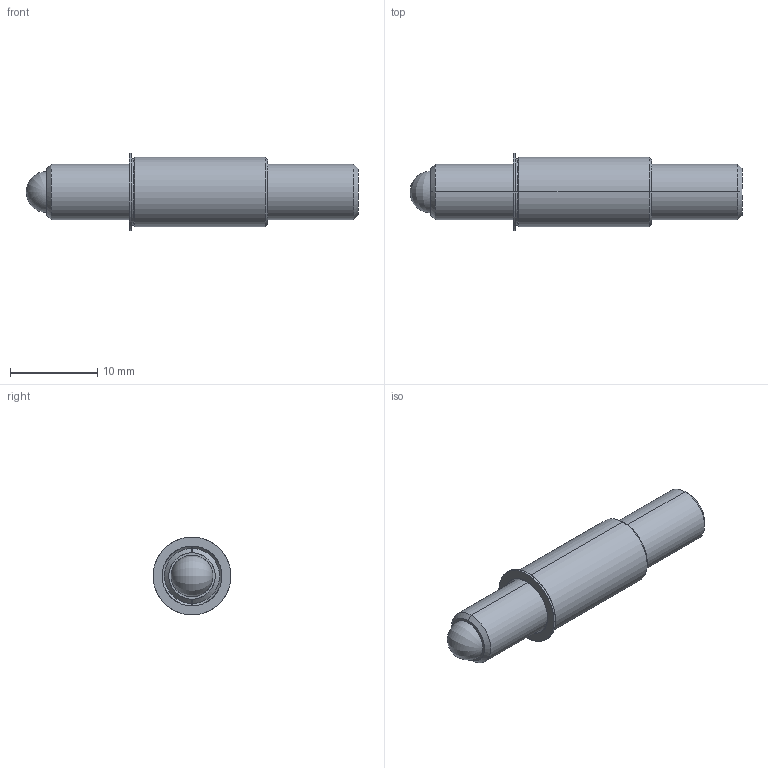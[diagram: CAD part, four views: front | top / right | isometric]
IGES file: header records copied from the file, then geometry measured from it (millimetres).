
Start section: SolidWorks IGES file using analytic representation for surfaces
Global section: file name: C:\Users\workpc\Desktop\KMA Solidworks\TSB250-80-1500_625-AA.IGS; native system: SolidWorks 2013; preprocessor: SolidWorks 2013; author: workpc; date: 130314.085245; units: inch
Bounding box: 38.1 x 8.94 x 8.94 mm (x, y, z)
Surface area: 1292.7 mm2 (no closed solid volume)
Topology: 0 solids, 0 shells, 33 faces, 406 edges, 402 vertices
Faces by surface type: revolution 22, bspline 11
